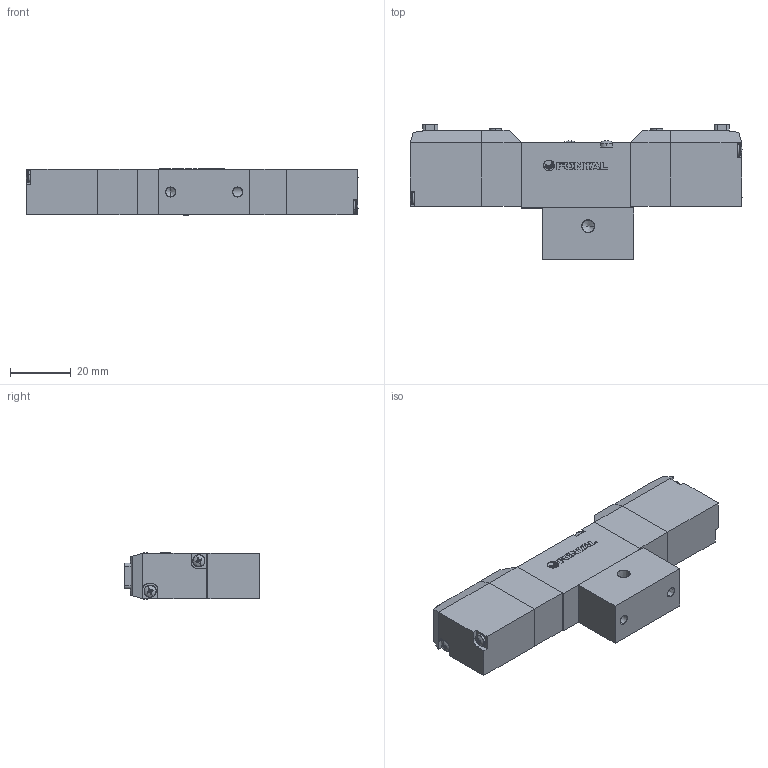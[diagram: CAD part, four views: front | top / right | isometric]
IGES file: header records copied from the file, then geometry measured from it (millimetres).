
Start section: SolidWorks IGES file using analytic representation for surfaces
Global section: file name: D:\Custom\3D繪製\PC\PC5\PCD345#-M5-#-L-#.IGS,1; native system: 5HSolidWorks 2014; preprocessor: SolidWorks 2014; author: Chieh_Lu; date: 150729.232052; units: millimetre
Bounding box: 109.14 x 44.5 x 15.4 mm (x, y, z)
Surface area: 17669.5 mm2 (no closed solid volume)
Topology: 0 solids, 0 shells, 524 faces, 4842 edges, 4816 vertices
Faces by surface type: bspline 321, revolution 203
